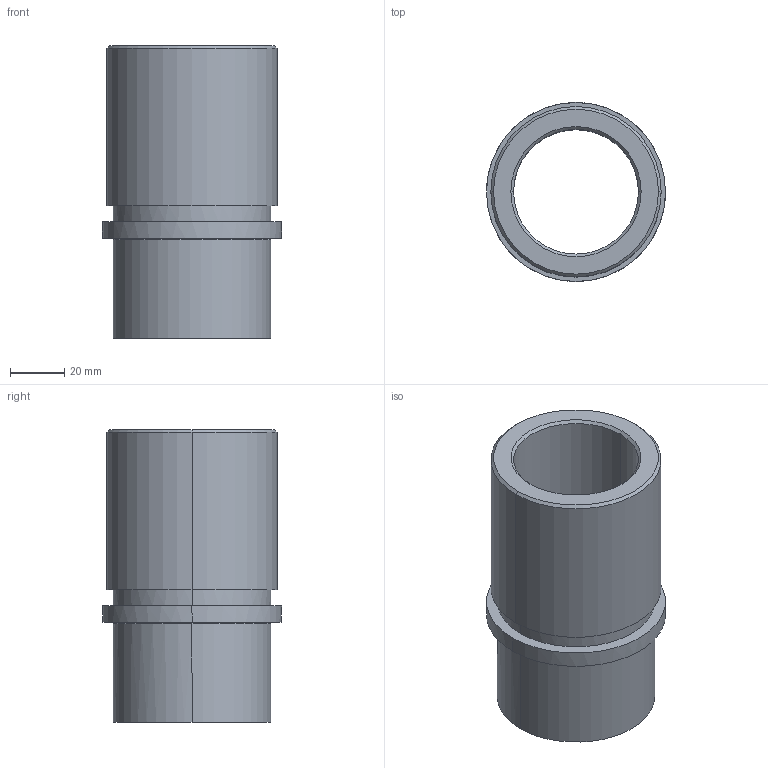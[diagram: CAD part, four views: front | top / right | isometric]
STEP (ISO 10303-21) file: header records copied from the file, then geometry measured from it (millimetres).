
FILE_DESCRIPTION(('CATIA V5 STEP Exchange'),'2;1');
FILE_NAME('C:\Users\Utente\Desktop\IO LAVORO\3D X SITO CF\X SITO\733\733-38.stp','2021-01-11T17:34:48+00:00',('none'),('none'),'CATIA Version 5 Release 20 GA (IN-10)','CATIA V5 STEP AP203','none');
FILE_SCHEMA(('CONFIG_CONTROL_DESIGN'));
Length unit declared in the file: millimetre
Products named in the file (1): 733-38
Assembly tree (1 placements, depth 2):
  733-38
    #58
Bounding box: 66 x 66 x 108 mm (x, y, z)
Volume: 137004.4 mm3; surface area: 40765.8 mm2
Topology: 1 solids, 1 shells, 25 faces, 50 edges, 30 vertices
Faces by surface type: cylinder 10, cone 6, plane 5, torus 4
Entity records: 851 total; most frequent: CARTESIAN_POINT 282, ORIENTED_EDGE 100, DIRECTION 96, AXIS2_PLACEMENT_3D 53, EDGE_CURVE 50, EDGE_LOOP 30, VERTEX_POINT 30, CIRCLE 26
